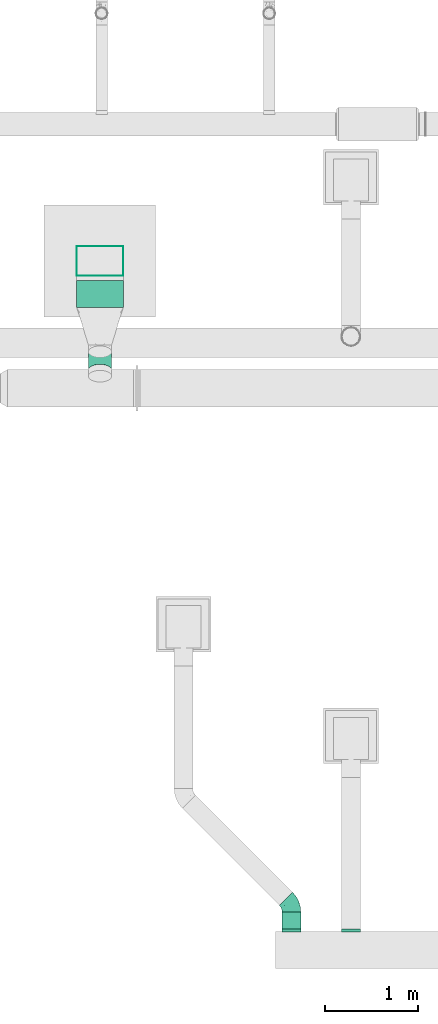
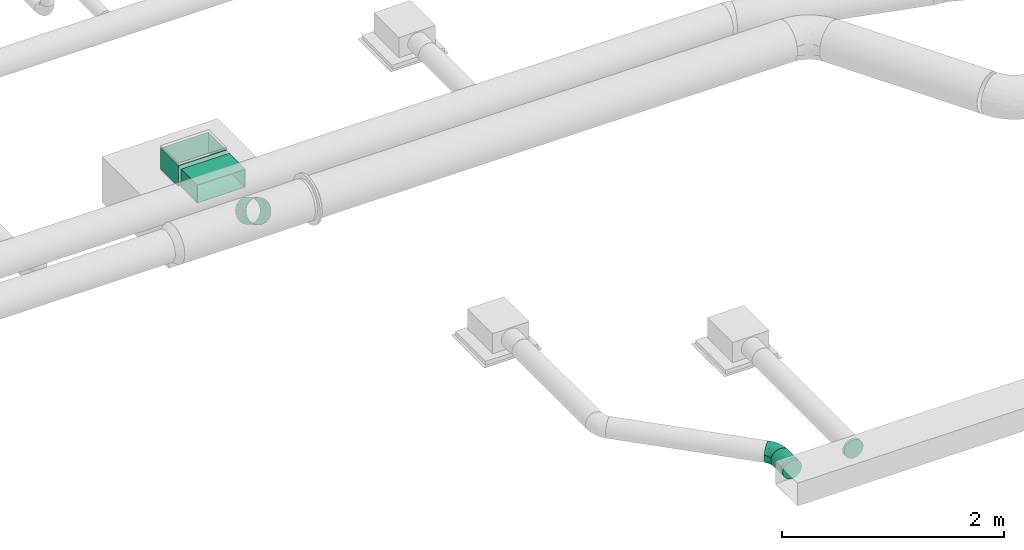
# One storey, part 16 of 36: 4 flow segments, 3 flow fittings.
"""IFC2X3 building model written with IfcOpenShell, lengths in millimetres."""

from ifc_helpers import new_model, entity, si_unit, converted_unit, derived_unit, direction, frame, origin_with_axes, origin_2d_with_axis, place, context, subcontext, project, spatial, hollow_rectangle, hollow_circle, extrude, open_shell, surface_model, source, transform, mapped, type_object, element, save


model = new_model("IFC2X3")

# Units and contexts
model_context = context("Model", 3, precision=0.01, world=frame((0.0, 4.29681676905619e-09, 0.0)), true_north=direction((4.01073788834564e-13, 1.0)))
plan_context = context("Plan", 3, precision=0.01, world=frame((0.0, 4.29681676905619e-09, 0.0)), true_north=direction((4.01073788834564e-13, 1.0)))
body_context = subcontext(model_context, "Body", "Model", "MODEL_VIEW")
ifc_project = project(units=[converted_unit("PLANEANGLEUNIT", "DEGREE", entity("IfcPositiveLengthMeasure", 0.0174532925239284), si_unit("PLANEANGLEUNIT", "RADIAN"), dimensions=[0, 0, 0, 0, 0, 0, 0]), si_unit("AREAUNIT", "SQUARE_METRE"), si_unit("LENGTHUNIT", "METRE", prefix="MILLI"), si_unit("MASSUNIT", "GRAM", prefix="KILO"), si_unit("POWERUNIT", "WATT"), si_unit("PRESSUREUNIT", "PASCAL"), si_unit("FORCEUNIT", "NEWTON", prefix="KILO"), si_unit("ELECTRICCURRENTUNIT", "AMPERE"), si_unit("THERMODYNAMICTEMPERATUREUNIT", "DEGREE_CELSIUS"), si_unit("TIMEUNIT", "SECOND"), si_unit("VOLUMEUNIT", "CUBIC_METRE"), derived_unit("LINEARVELOCITYUNIT", [(si_unit("LENGTHUNIT", "METRE"), 1), (si_unit("TIMEUNIT", "SECOND"), -1)]), derived_unit("VOLUMETRICFLOWRATEUNIT", [(si_unit("VOLUMEUNIT", "CUBIC_METRE"), 1), (si_unit("TIMEUNIT", "SECOND"), -1)]), derived_unit("THERMALTRANSMITTANCEUNIT", [(si_unit("POWERUNIT", "WATT"), 1), (si_unit("THERMODYNAMICTEMPERATUREUNIT", "KELVIN"), -1), (si_unit("AREAUNIT", "SQUARE_METRE"), -1)])], contexts=[model_context, plan_context])

# Site, building, storey
site_placement = place(None, frame((0.0, -4.29681676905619e-09, 0.0), z_axis=(0.0, 0.0, 1.0), x_axis=(1.0, 0.0, 0.0)))
site = spatial("IfcSite", under=ifc_project, at=site_placement, CompositionType="ELEMENT")
building_placement = place(site_placement, frame((0.0, 4.29681676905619e-09, 0.0), z_axis=(0.0, 0.0, 1.0), x_axis=(1.0, 0.0, 0.0)))
building = spatial("IfcBuilding", under=site, at=building_placement, Name="mc-building", CompositionType="ELEMENT")
storey_placement = place(building_placement, frame((0.0, 0.0, 204000.0), z_axis=(0.0, 0.0, 1.0), x_axis=(1.0, 0.0, 0.0)))
storey = spatial("IfcBuildingStorey", under=building, at=storey_placement, Name="Nivå D", CompositionType="ELEMENT", Elevation=204000.0)

# Flow fittings
duct_fitting_type_1 = type_object("IfcDuctFittingType", Name="magicirc_tapoutlet_001", PredefinedType="CONNECTOR")
shared_shape_1 = source(origin_with_axes(), body_context, "Body", "SurfaceModel", [
    surface_model("IfcShellBasedSurfaceModel", [(-6.096, 0.0, -100.0), (-6.096, -25.8819, -96.59259), (-6.096, 25.8819, -96.59259), (-6.096, 96.59259, 25.8819), (-6.096, 50.0, -86.60254), (-6.096, 86.60254, -50.0), (-6.096, 70.71068, -70.71068), (-6.096, -100.0, 0.0), (-6.096, -96.59259, 25.8819), (-6.096, -70.71068, -70.71068), (-6.096, -50.0, -86.60254), (-6.096, -96.59259, -25.8819), (-6.096, -86.60254, -50.0), (-6.096, 96.59259, -25.8819), (-6.096, 86.60254, 50.0), (-6.096, 70.71068, 70.71068), (-6.096, 50.0, 86.60254), (-6.096, 25.8819, 96.59259), (-6.096, 0.0, 100.0), (-6.096, -86.60254, 50.0), (-6.096, -70.71068, 70.71068), (-6.096, -25.8819, 96.59259), (-6.096, -50.0, 86.60254), (-6.096, 100.0, 0.0), (0.0, 0.0, 100.0), (0.0, 25.8819, 96.59259), (0.0, 50.0, 86.60254), (0.0, 70.71068, 70.71068), (0.0, 86.60254, 50.0), (0.0, 96.59259, 25.8819), (0.0, 100.0, 0.0), (0.0, 96.59259, -25.8819), (0.0, 86.60254, -50.0), (0.0, 70.71068, -70.71068), (0.0, 25.8819, -96.59259), (0.0, 0.0, -100.0), (0.0, 50.0, -86.60254), (0.0, -25.8819, -96.59259), (0.0, -50.0, -86.60254), (0.0, -70.71068, -70.71068), (0.0, -86.60254, -50.0), (0.0, -96.59259, -25.8819), (0.0, -100.0, 0.0), (0.0, -96.59259, 25.8819), (0.0, -86.60254, 50.0), (0.0, -70.71068, 70.71068), (0.0, -50.0, 86.60254), (0.0, -25.8819, 96.59259), (25.0, 0.0, -100.0), (25.0, -50.0, -86.60254), (25.0, -25.8819, -96.59259), (25.0, -100.0, 0.0), (25.0, -96.59259, -25.8819), (25.0, -96.59259, 25.8819), (25.0, 25.8819, -96.59259), (25.0, 100.0, 0.0), (25.0, 50.0, -86.60254), (25.0, 70.71068, -70.71068), (25.0, 86.60254, -50.0), (25.0, -70.71068, -70.71068), (25.0, -86.60254, -50.0), (25.0, 96.59259, -25.8819), (25.0, 96.59259, 25.8819), (25.0, 86.60254, 50.0), (25.0, 70.71068, 70.71068), (25.0, 25.8819, 96.59259), (25.0, 50.0, 86.60254), (25.0, -25.8819, 96.59259), (25.0, -70.71068, 70.71068), (25.0, -86.60254, 50.0), (25.0, -50.0, 86.60254), (25.0, 0.0, 100.0)], [open_shell([[[0, 1, 2]], [[2, 3, 4]], [[5, 6, 3]], [[3, 6, 4]], [[2, 7, 8]], [[9, 7, 10]], [[2, 1, 10]], [[11, 7, 12]], [[9, 12, 7]], [[10, 7, 2]], [[13, 5, 3]], [[14, 3, 2]], [[2, 15, 14]], [[16, 2, 17]], [[16, 15, 2]], [[18, 17, 2]], [[19, 20, 2]], [[2, 8, 19]], [[21, 18, 22]], [[2, 20, 22]], [[22, 18, 2]], [[23, 13, 3]], [[18, 24, 25]], [[17, 25, 26]], [[18, 25, 17]], [[16, 27, 15]], [[16, 17, 26]], [[27, 16, 26]], [[14, 28, 29]], [[3, 29, 30]], [[15, 28, 14]], [[3, 14, 29]], [[23, 3, 30]], [[28, 15, 27]], [[23, 30, 31]], [[13, 31, 32]], [[23, 31, 13]], [[5, 33, 6]], [[5, 13, 32]], [[33, 5, 32]], [[34, 35, 2]], [[36, 34, 4]], [[6, 36, 4]], [[0, 2, 35]], [[34, 2, 4]], [[36, 6, 33]], [[0, 35, 37]], [[1, 37, 38]], [[0, 37, 1]], [[10, 39, 9]], [[10, 1, 38]], [[39, 10, 38]], [[12, 40, 41]], [[11, 41, 42]], [[9, 40, 12]], [[11, 12, 41]], [[7, 11, 42]], [[40, 9, 39]], [[7, 42, 43]], [[8, 43, 44]], [[7, 43, 8]], [[19, 45, 20]], [[19, 8, 44]], [[45, 19, 44]], [[22, 46, 47]], [[21, 47, 24]], [[20, 46, 22]], [[21, 22, 47]], [[18, 21, 24]], [[46, 20, 45]], [[48, 49, 50]], [[51, 52, 53]], [[54, 55, 48]], [[56, 55, 54]], [[55, 57, 58]], [[55, 56, 57]], [[59, 48, 53]], [[48, 59, 49]], [[60, 53, 52]], [[53, 60, 59]], [[55, 58, 61]], [[62, 63, 48]], [[63, 64, 48]], [[65, 48, 66]], [[48, 64, 66]], [[48, 65, 67]], [[48, 68, 69]], [[53, 48, 69]], [[48, 70, 68]], [[67, 70, 48]], [[65, 71, 67]], [[62, 48, 55]], [[24, 71, 65]], [[25, 65, 66]], [[24, 65, 25]], [[26, 64, 27]], [[26, 25, 66]], [[64, 26, 66]], [[28, 63, 62]], [[29, 62, 55]], [[27, 63, 28]], [[29, 28, 62]], [[30, 29, 55]], [[63, 27, 64]], [[30, 55, 61]], [[31, 61, 58]], [[30, 61, 31]], [[32, 57, 33]], [[32, 31, 58]], [[57, 32, 58]], [[54, 48, 34]], [[56, 54, 36]], [[33, 56, 36]], [[35, 34, 48]], [[54, 34, 36]], [[56, 33, 57]], [[35, 48, 50]], [[37, 50, 49]], [[35, 50, 37]], [[38, 59, 39]], [[38, 37, 49]], [[59, 38, 49]], [[40, 60, 52]], [[41, 52, 51]], [[39, 60, 40]], [[41, 40, 52]], [[42, 41, 51]], [[60, 39, 59]], [[42, 51, 53]], [[43, 53, 69]], [[42, 53, 43]], [[44, 68, 45]], [[44, 43, 69]], [[68, 44, 69]], [[46, 70, 67]], [[47, 67, 71]], [[45, 70, 46]], [[47, 46, 67]], [[24, 47, 71]], [[70, 45, 68]], [[63, 48, 62]], [[48, 63, 66]], [[66, 63, 64]], [[67, 48, 65]], [[48, 69, 53]], [[68, 69, 48]], [[68, 48, 70]]])]),
])
for number, where, z_axis, x_axis, name in (
    (1, (525696.54715, 407900.00468, 2868.32430000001), (0.0, 0.0, -1.0), (0.0, 1.0, 0.0), "magicirc_tapoutlet_001"),
    (2, (525057.20733, 407900.00468, 2868.32430000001), (0.0, 0.0, -1.0), (0.0, 1.0, 0.0), "magicirc_tapoutlet_001"),
):
    element("IfcFlowFitting", number, at=place(storey_placement, frame(where, z_axis=z_axis, x_axis=x_axis)), inside=storey, type_object=duct_fitting_type_1, Name=name, context=body_context, shape_type="MappedRepresentation", body=[
        mapped(shared_shape_1, transform((0.0, 0.0, 0.0), scale=1.0)),
    ])
duct_fitting_type_2 = type_object("IfcDuctFittingType", Name="magicirc_elbow_full_radius_001", PredefinedType="BEND")
shared_shape_2 = source(origin_with_axes(), body_context, "Body", "SurfaceModel", [
    surface_model("IfcShellBasedSurfaceModel", [(-82.84271, 25.8819, -96.59259), (-82.84271, 0.0, -100.0), (-82.84271, 96.59259, -25.8819), (-82.84271, 50.0, -86.60254), (-82.84271, 86.60254, -50.0), (-82.84271, 70.71068, -70.71068), (-82.84271, -70.71068, -70.71068), (-82.84271, -50.0, -86.60254), (-82.84271, -25.8819, -96.59259), (-82.84271, -86.60254, -50.0), (-82.84271, -96.59259, -25.8819), (-82.84271, -50.0, 86.60254), (-82.84271, -100.0, 0.0), (-82.84271, -96.59259, 25.8819), (-82.84271, 96.59259, 25.8819), (-82.84271, 100.0, 0.0), (-82.84271, 25.8819, 96.59259), (-82.84271, 86.60254, 50.0), (-82.84271, 70.71068, 70.71068), (-82.84271, 50.0, 86.60254), (-82.84271, -86.60254, 50.0), (-82.84271, -70.71068, 70.71068), (-82.84271, -25.8819, 96.59259), (-82.84271, 0.0, 100.0), (58.57864, 58.57864, -100.0), (40.27737, 76.87991, -96.59259), (23.22331, 93.93398, -86.60254), (-2.6586, 119.81589, -50.0), (108.57865, 8.57864, -70.71068), (8.57864, 108.57865, -70.71068), (126.87991, -9.72263, 25.8819), (126.87991, -9.72263, -25.8819), (76.87991, 40.27737, -96.59259), (93.93398, 23.22331, -86.60254), (119.81589, -2.6586, -50.0), (129.28932, -12.13203, 0.0), (-9.72263, 126.87991, -25.8819), (-12.13203, 129.28932, 0.0), (-9.72263, 126.87991, 25.8819), (-2.6586, 119.81589, 50.0), (23.22331, 93.93398, 86.60254), (40.27737, 76.87991, 96.59259), (8.57864, 108.57865, 70.71068), (93.93398, 23.22331, 86.60254), (108.57865, 8.57864, 70.71068), (119.81589, -2.6586, 50.0), (76.87991, 40.27737, 96.59259), (58.57864, 58.57864, 100.0), (-57.29099, -79.42021, 59.21052), (-24.31562, -94.23558, 0.0), (-43.9725, -96.06555, 16.63742), (-58.00304, -97.5535, 0.0), (-22.62975, -75.75, 56.8801), (-39.16383, -90.45398, 34.87961), (-29.30132, -36.36549, 90.58787), (-39.70312, -60.08226, 77.13943), (19.49388, -47.06239, 73.85634), (10.84026, 65.00947, 93.41562), (1.46492, -3.53662, 97.91653), (-43.12593, -12.7573, 98.6406), (-38.26827, 14.32746, 99.58947), (-57.69239, 93.63486, 42.10905), (-35.4631, 85.6155, 64.76816), (-29.65962, 102.0198, 46.52765), (-12.25866, 100.52723, 62.54187), (-62.4153, 79.75166, 62.54187), (-46.49193, 62.66416, 81.50801), (-6.40302, -88.25261, 18.80636), (-18.73869, 45.23919, 94.57549), (-53.63386, 38.30341, 93.41562), (91.65364, -36.26761, 34.87961), (-43.25494, 104.42667, 26.03225), (-56.96081, 103.40741, 0.0), (39.51541, 21.47386, 98.6406), (-32.84271, 113.39746, 0.0), (19.7138, -75.88259, 33.1995), (26.23125, -61.80978, 54.83928), (46.43345, -4.99513, 90.58787), (98.51157, -37.21493, 16.69099), (71.15919, -55.23259, 19.42915), (-10.03396, 78.1744, 81.40791), (96.66942, -15.64772, 59.21052), (16.9287, 37.1908, 99.58947), (56.23324, -57.15976, 38.34032), (31.96232, -77.16386, 0.0), (70.55892, -14.41023, 77.13943), (83.82836, -49.44088, 0.0), (106.55884, -30.78646, 0.0), (69.56499, -37.56169, 56.8801), (9.88078, -23.85433, 90.61382), (-11.68618, 28.21294, 99.00678), (57.89534, -63.30237, 0.0), (3.82335, -85.69972, 0.0), (82.71793, -27.62774, -57.98988), (55.71052, 2.24508, -90.99936), (32.01348, 15.60322, -98.50234), (-46.22996, 82.51933, -63.86908), (-42.69185, 39.65342, -93.78543), (-8.72296, 21.05909, -99.80036), (-48.44601, 13.11192, -99.50146), (-43.25495, 104.42667, -26.03225), (-58.37356, 61.05095, -80.80392), (-27.86885, 67.28134, -82.61409), (2.14849, 58.2269, -93.78543), (-36.62535, 98.23487, -47.06584), (-26.19472, -88.59033, -33.84745), (109.99508, -27.9664, 0.0), (-27.06178, -58.48887, -76.46967), (7.51001, -27.94606, -89.20181), (24.24205, -38.81302, -78.67846), (-39.42854, -78.07759, -58.02175), (-40.9808, -37.80578, -90.99936), (-33.67009, -11.60381, -98.50234), (16.54926, -66.14947, -54.09942), (27.48789, -74.57861, -28.28654), (39.90412, -47.07461, -65.1263), (54.0194, -52.73285, -48.57265), (-17.13985, 96.75999, -63.04113), (-7.90978, 86.16249, -77.07496), (24.98497, 43.52803, -99.50146), (81.16529, -44.12035, -33.84745), (57.56574, -24.35182, -76.27755), (-0.71706, 1.73113, -98.92776), (54.51768, -60.62886, -32.38632)], [open_shell([[[0, 1, 2]], [[3, 0, 2]], [[2, 4, 5]], [[3, 2, 5]], [[6, 2, 1]], [[7, 6, 8]], [[6, 1, 8]], [[9, 10, 6]], [[11, 6, 10]], [[10, 12, 13]], [[2, 6, 11]], [[14, 15, 16]], [[17, 14, 18]], [[14, 16, 19]], [[18, 14, 19]], [[11, 16, 15]], [[20, 21, 13]], [[11, 13, 21]], [[10, 13, 11]], [[11, 22, 16]], [[22, 23, 16]], [[15, 2, 11]], [[24, 25, 26]], [[24, 26, 27]], [[24, 27, 28]], [[27, 26, 29]], [[30, 31, 27]], [[32, 28, 33]], [[32, 24, 28]], [[28, 31, 34]], [[27, 31, 28]], [[31, 30, 35]], [[30, 27, 36]], [[37, 38, 39]], [[30, 37, 39]], [[40, 41, 39]], [[40, 39, 42]], [[43, 39, 41]], [[30, 44, 45]], [[44, 30, 43]], [[41, 46, 43]], [[43, 30, 39]], [[47, 46, 41]], [[37, 30, 36]], [[21, 20, 48]], [[49, 50, 51]], [[52, 48, 53]], [[22, 11, 54]], [[11, 55, 54]], [[54, 55, 56]], [[41, 40, 57]], [[58, 59, 54]], [[59, 23, 22]], [[16, 23, 60]], [[17, 61, 14]], [[62, 63, 61]], [[42, 39, 64]], [[62, 65, 66]], [[53, 50, 67]], [[65, 17, 18]], [[68, 69, 60]], [[53, 20, 13]], [[45, 70, 30]], [[14, 71, 72]], [[46, 47, 73]], [[72, 15, 14]], [[74, 71, 38]], [[11, 21, 55]], [[16, 69, 19]], [[52, 75, 76]], [[53, 75, 52]], [[18, 19, 66]], [[77, 46, 73]], [[78, 70, 79]], [[68, 57, 80]], [[77, 43, 46]], [[45, 44, 81]], [[41, 57, 82]], [[75, 83, 76]], [[45, 81, 70]], [[67, 84, 75]], [[77, 85, 43]], [[86, 78, 79]], [[30, 78, 87]], [[83, 70, 88]], [[13, 51, 50]], [[85, 56, 88]], [[72, 71, 74]], [[44, 43, 85]], [[37, 74, 38]], [[54, 89, 58]], [[38, 71, 63]], [[73, 82, 58]], [[42, 80, 40]], [[90, 58, 82]], [[63, 62, 64]], [[60, 90, 68]], [[62, 66, 80]], [[41, 82, 47]], [[59, 60, 23]], [[69, 66, 19]], [[70, 83, 79]], [[48, 55, 21]], [[89, 56, 77]], [[56, 55, 52]], [[56, 85, 77]], [[81, 85, 88]], [[80, 42, 64]], [[68, 80, 66]], [[54, 59, 22]], [[60, 59, 58]], [[82, 73, 47]], [[77, 73, 58]], [[60, 69, 16]], [[66, 69, 68]], [[80, 57, 40]], [[82, 57, 68]], [[76, 88, 56]], [[13, 12, 51]], [[88, 76, 83]], [[52, 76, 56]], [[75, 79, 83]], [[79, 84, 91]], [[87, 35, 30]], [[30, 70, 78]], [[78, 86, 87]], [[84, 79, 75]], [[91, 86, 79]], [[67, 50, 49]], [[13, 50, 53]], [[67, 49, 92]], [[53, 67, 75]], [[38, 63, 39]], [[61, 63, 71]], [[14, 61, 71]], [[61, 17, 65]], [[66, 65, 18]], [[61, 65, 62]], [[63, 64, 39]], [[80, 64, 62]], [[53, 48, 20]], [[55, 48, 52]], [[85, 81, 44]], [[70, 81, 88]], [[56, 89, 54]], [[77, 58, 89]], [[58, 90, 60]], [[82, 68, 90]], [[84, 67, 92]], [[34, 93, 28]], [[32, 94, 95]], [[96, 5, 4]], [[3, 97, 0]], [[15, 72, 2]], [[98, 99, 97]], [[2, 72, 100]], [[24, 32, 95]], [[101, 96, 102]], [[26, 25, 103]], [[2, 100, 104]], [[99, 1, 0]], [[9, 105, 10]], [[32, 33, 94]], [[105, 51, 10]], [[102, 103, 97]], [[31, 35, 106]], [[4, 2, 104]], [[6, 7, 107]], [[107, 108, 109]], [[6, 110, 9]], [[8, 111, 7]], [[8, 1, 112]], [[105, 113, 114]], [[115, 93, 116]], [[29, 117, 27]], [[100, 72, 74]], [[113, 110, 107]], [[74, 37, 36]], [[111, 108, 107]], [[117, 104, 27]], [[104, 36, 27]], [[102, 96, 118]], [[117, 118, 96]], [[3, 5, 101]], [[112, 111, 8]], [[119, 25, 24]], [[101, 97, 3]], [[1, 99, 112]], [[102, 118, 103]], [[93, 34, 120]], [[119, 95, 98]], [[95, 94, 108]], [[110, 6, 107]], [[115, 109, 121]], [[113, 116, 114]], [[92, 105, 114]], [[121, 33, 28]], [[120, 31, 106]], [[110, 113, 105]], [[120, 106, 86]], [[119, 103, 25]], [[95, 122, 98]], [[31, 120, 34]], [[91, 114, 123]], [[122, 108, 112]], [[116, 93, 120]], [[100, 74, 36]], [[121, 28, 93]], [[98, 97, 103]], [[105, 9, 110]], [[33, 121, 94]], [[94, 121, 109]], [[108, 111, 112]], [[107, 7, 111]], [[97, 99, 0]], [[112, 99, 98]], [[95, 119, 24]], [[103, 119, 98]], [[117, 29, 118]], [[104, 117, 96]], [[4, 104, 96]], [[104, 100, 36]], [[29, 26, 118]], [[103, 118, 26]], [[84, 114, 91]], [[115, 116, 113]], [[96, 101, 5]], [[49, 105, 92]], [[109, 113, 107]], [[93, 115, 121]], [[109, 115, 113]], [[94, 109, 108]], [[120, 123, 116]], [[86, 91, 120]], [[97, 101, 102]], [[51, 105, 49]], [[51, 12, 10]], [[108, 122, 95]], [[112, 98, 122]], [[114, 84, 92]], [[91, 123, 120]], [[114, 116, 123]]])]),
])
flow_fitting_placement = place(storey_placement, frame((525057.20733, 408189.69059, 2868.32430000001), z_axis=(0.0, 0.0, 1.0), x_axis=(0.0, 1.0, 0.0)))
element("IfcFlowFitting", 3, at=flow_fitting_placement, inside=storey, type_object=duct_fitting_type_2, Name="magicirc_elbow_full_radius_001", context=body_context, shape_type="MappedRepresentation", body=[
    mapped(shared_shape_2, transform((0.0, 0.0, 0.0), scale=1.0)),
])

# Flow segments
duct_segment_type_1 = type_object("IfcDuctSegmentType", Name="KK001T - Spiro kanaler, Forsinket stål", PredefinedType="RIGIDSEGMENT")
shared_shape_3 = source(origin_with_axes(), body_context, "Body", "SweptSolid", [
    extrude(hollow_circle(Radius=100.0, WallThickness=2.0, at=origin_2d_with_axis()), frame((0.0, 0.0, 0.0), z_axis=(1.0, 0.0, 0.0), x_axis=(0.0, 1.0, 0.0)), (0.0, 0.0, 1.0), 181.8),
])
flow_segment_1_placement = place(storey_placement, frame((525057.20733, 407925.00468, 2868.32430000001), z_axis=(0.0, 0.0, 1.0), x_axis=(0.0, 1.0, 0.0)))
element("IfcFlowSegment", 4, at=flow_segment_1_placement, inside=storey, type_object=duct_segment_type_1, Name="KK001T - Spiro kanaler, Forsinket stål", context=body_context, shape_type="MappedRepresentation", body=[
    mapped(shared_shape_3, transform((0.0, 0.0, 0.0), scale=1.0)),
])
duct_segment_type_2 = type_object("IfcDuctSegmentType", Name="KK002T - Rektangulære, Forsinket stål", PredefinedType="RIGIDSEGMENT")
shared_shape_4 = source(origin_with_axes(), body_context, "Body", "SweptSolid", [
    extrude(hollow_rectangle(XDim=500.0, YDim=200.0, WallThickness=2.0, at=origin_2d_with_axis()), frame((0.0, 0.0, 0.0), z_axis=(1.0, 0.0, 0.0), x_axis=(0.0, 1.0, 0.0)), (0.0, 0.0, 1.0), 289.6),
])
flow_segment_2_placement = place(storey_placement, frame((523000.04455, 414599.72582, 2631.10729000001), z_axis=(0.0, 0.0, 1.0), x_axis=(0.0, 1.0, 0.0)))
element("IfcFlowSegment", 5, at=flow_segment_2_placement, inside=storey, type_object=duct_segment_type_2, Name="KK002T - Rektangulære, Forsinket stål", context=body_context, shape_type="MappedRepresentation", body=[
    mapped(shared_shape_4, transform((0.0, 0.0, 0.0), scale=1.0)),
])
duct_segment_type_3 = type_object("IfcDuctSegmentType", Name="KK002T - Spiro kanaler, Forsinket stål, korte bend", PredefinedType="RIGIDSEGMENT")
shared_shape_5 = source(origin_with_axes(), body_context, "Body", "SweptSolid", [
    extrude(hollow_circle(Radius=125.0, WallThickness=2.0, at=origin_2d_with_axis()), frame((0.0, 0.0, 0.0), z_axis=(1.0, 0.0, 0.0), x_axis=(0.0, 1.0, 0.0)), (0.0, 0.0, 1.0), 227.6),
])
flow_segment_3_placement = place(storey_placement, frame((523000.04455, 414124.72582, 2651.20348), z_axis=(0.0, 0.500000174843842, 0.866025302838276), x_axis=(0.0, -0.866025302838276, 0.500000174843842)))
element("IfcFlowSegment", 6, at=flow_segment_3_placement, inside=storey, type_object=duct_segment_type_3, Name="KK002T - Spiro kanaler, Forsinket stål, korte bend", context=body_context, shape_type="MappedRepresentation", body=[
    mapped(shared_shape_5, transform((0.0, 0.0, 0.0), scale=1.0)),
])
shared_shape_6 = source(origin_with_axes(), body_context, "Body", "SweptSolid", [
    extrude(hollow_rectangle(XDim=320.0, YDim=500.0, WallThickness=2.0, at=origin_2d_with_axis()), frame((0.0, 0.0, 0.0), z_axis=(1.0, 0.0, 0.0), x_axis=(0.0, 1.0, 0.0)), (0.0, 0.0, 1.0), 230.0),
])
flow_segment_4_placement = place(storey_placement, frame((523000.04455, 415099.37451, 2510.0), z_axis=(1.0, 0.0, 0.0), x_axis=(0.0, 0.0, 1.0)))
element("IfcFlowSegment", 7, at=flow_segment_4_placement, inside=storey, type_object=duct_segment_type_2, Name="KK002T - Rektangulære, Forsinket stål", context=body_context, shape_type="MappedRepresentation", body=[
    mapped(shared_shape_6, transform((0.0, 0.0, 0.0), scale=1.0)),
])

save(model, "model.ifc")
